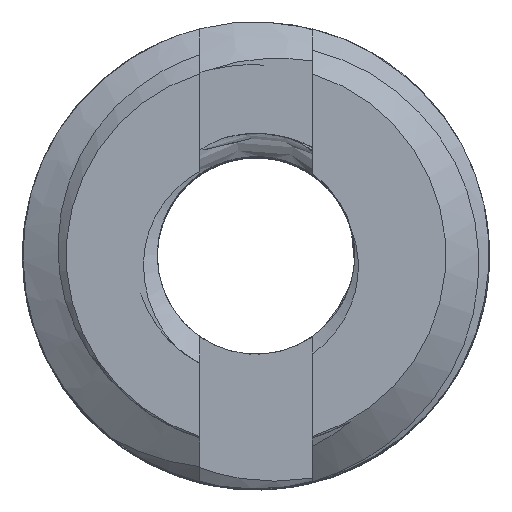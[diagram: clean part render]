
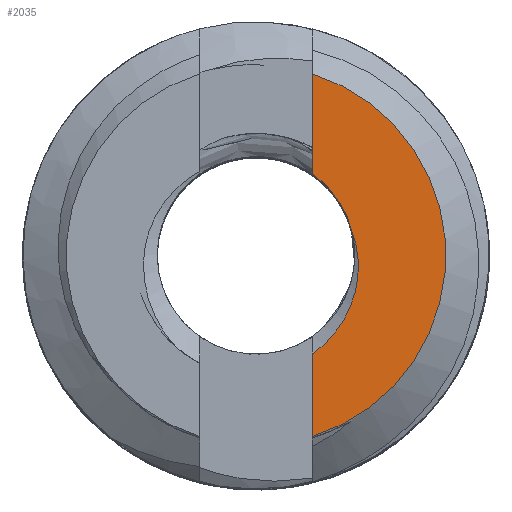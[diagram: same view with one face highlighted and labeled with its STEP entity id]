
A CAD part, top view. The second image highlights one B-rep face of the part: STEP entity #2035.
In plain terms, the highlighted planar face has unit normal (0, 0, 1).
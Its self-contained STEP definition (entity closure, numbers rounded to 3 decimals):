
#52=PLANE('',#2164);
#133=FACE_OUTER_BOUND('',#242,.T.);
#242=EDGE_LOOP('',(#1669,#1670,#1671,#1672,#1673));
#285=CIRCLE('',#2165,3.2);
#286=CIRCLE('',#2166,1.666);
#463=B_SPLINE_CURVE_WITH_KNOTS('',3,(#6597,#6598,#6599,#6600,#6601,#6602,
#6603,#6604,#6605,#6606,#6607,#6608,#6609,#6610,#6611,#6612,#6613,#6614,
#6615,#6616,#6617,#6618,#6619,#6620,#6621,#6622,#6623,#6624,#6625,#6626,
#6627,#6628,#6629,#6630,#6631,#6632,#6633,#6634,#6635,#6636,#6637,#6638,
#6639,#6640,#6641,#6642,#6643,#6644,#6645,#6646,#6647,#6648,#6649,#6650,
#6651),.UNSPECIFIED.,.F.,.F.,(4,3,3,3,3,3,3,3,3,3,3,3,3,3,3,3,3,3,4),(0.,
0.019,0.038,0.057,0.063,
0.066,0.087,0.107,0.114,
0.129,0.135,0.138,0.159,
0.18,0.194,0.206,0.209,
0.23,0.236),.UNSPECIFIED.);
#578=LINE('',#5053,#678);
#585=LINE('',#5221,#685);
#678=VECTOR('',#2410,10.);
#685=VECTOR('',#2423,10.);
#873=VERTEX_POINT('',#5050);
#874=VERTEX_POINT('',#5052);
#887=VERTEX_POINT('',#5216);
#888=VERTEX_POINT('',#5220);
#904=VERTEX_POINT('',#6595);
#1146=EDGE_CURVE('',#874,#873,#578,.T.);
#1165=EDGE_CURVE('',#888,#887,#585,.T.);
#1198=EDGE_CURVE('',#887,#874,#285,.T.);
#1199=EDGE_CURVE('',#873,#904,#286,.F.);
#1200=EDGE_CURVE('',#904,#888,#463,.T.);
#1669=ORIENTED_EDGE('',*,*,#1165,.T.);
#1670=ORIENTED_EDGE('',*,*,#1198,.T.);
#1671=ORIENTED_EDGE('',*,*,#1146,.T.);
#1672=ORIENTED_EDGE('',*,*,#1199,.T.);
#1673=ORIENTED_EDGE('',*,*,#1200,.T.);
#2035=ADVANCED_FACE('',(#133),#52,.T.);
#2164=AXIS2_PLACEMENT_3D('',#6593,#2456,#2457);
#2165=AXIS2_PLACEMENT_3D('',#6594,#2458,#2459);
#2166=AXIS2_PLACEMENT_3D('',#6596,#2460,#2461);
#2410=DIRECTION('',(0.,-1.,0.));
#2423=DIRECTION('',(0.,-1.,0.));
#2456=DIRECTION('center_axis',(0.,0.,1.));
#2457=DIRECTION('ref_axis',(1.,0.,0.));
#2458=DIRECTION('center_axis',(0.,0.,1.));
#2459=DIRECTION('ref_axis',(-1.,0.,0.));
#2460=DIRECTION('center_axis',(0.,0.,1.));
#2461=DIRECTION('ref_axis',(1.,0.,0.));
#5050=CARTESIAN_POINT('',(0.95,1.369,15.));
#5052=CARTESIAN_POINT('',(0.95,3.056,15.));
#5053=CARTESIAN_POINT('',(0.95,3.707,15.));
#5216=CARTESIAN_POINT('',(0.95,-3.056,15.));
#5220=CARTESIAN_POINT('',(0.95,-1.667,15.));
#5221=CARTESIAN_POINT('',(0.95,3.707,15.));
#6593=CARTESIAN_POINT('Origin',(0.,0.,15.));
#6594=CARTESIAN_POINT('Origin',(0.,0.,15.));
#6595=CARTESIAN_POINT('',(1.612,0.422,15.));
#6596=CARTESIAN_POINT('Origin',(0.,0.,15.));
#6597=CARTESIAN_POINT('Ctrl Pts',(1.612,0.422,15.));
#6598=CARTESIAN_POINT('Ctrl Pts',(1.635,0.363,15.));
#6599=CARTESIAN_POINT('Ctrl Pts',(1.654,0.303,15.));
#6600=CARTESIAN_POINT('Ctrl Pts',(1.67,0.242,15.));
#6601=CARTESIAN_POINT('Ctrl Pts',(1.686,0.18,15.));
#6602=CARTESIAN_POINT('Ctrl Pts',(1.699,0.117,15.));
#6603=CARTESIAN_POINT('Ctrl Pts',(1.708,0.053,15.));
#6604=CARTESIAN_POINT('Ctrl Pts',(1.717,-0.009,
15.));
#6605=CARTESIAN_POINT('Ctrl Pts',(1.722,-0.072,15.));
#6606=CARTESIAN_POINT('Ctrl Pts',(1.724,-0.135,15.));
#6607=CARTESIAN_POINT('Ctrl Pts',(1.725,-0.154,15.));
#6608=CARTESIAN_POINT('Ctrl Pts',(1.725,-0.172,15.));
#6609=CARTESIAN_POINT('Ctrl Pts',(1.725,-0.19,15.));
#6610=CARTESIAN_POINT('Ctrl Pts',(1.725,-0.202,15.));
#6611=CARTESIAN_POINT('Ctrl Pts',(1.725,-0.214,15.));
#6612=CARTESIAN_POINT('Ctrl Pts',(1.725,-0.226,15.));
#6613=CARTESIAN_POINT('Ctrl Pts',(1.724,-0.293,15.));
#6614=CARTESIAN_POINT('Ctrl Pts',(1.719,-0.36,15.));
#6615=CARTESIAN_POINT('Ctrl Pts',(1.71,-0.426,15.));
#6616=CARTESIAN_POINT('Ctrl Pts',(1.701,-0.493,15.));
#6617=CARTESIAN_POINT('Ctrl Pts',(1.688,-0.56,15.));
#6618=CARTESIAN_POINT('Ctrl Pts',(1.672,-0.625,15.));
#6619=CARTESIAN_POINT('Ctrl Pts',(1.666,-0.649,15.));
#6620=CARTESIAN_POINT('Ctrl Pts',(1.659,-0.672,15.));
#6621=CARTESIAN_POINT('Ctrl Pts',(1.652,-0.695,15.));
#6622=CARTESIAN_POINT('Ctrl Pts',(1.638,-0.744,15.));
#6623=CARTESIAN_POINT('Ctrl Pts',(1.621,-0.792,15.));
#6624=CARTESIAN_POINT('Ctrl Pts',(1.602,-0.839,15.));
#6625=CARTESIAN_POINT('Ctrl Pts',(1.596,-0.855,15.));
#6626=CARTESIAN_POINT('Ctrl Pts',(1.589,-0.871,15.));
#6627=CARTESIAN_POINT('Ctrl Pts',(1.583,-0.886,15.));
#6628=CARTESIAN_POINT('Ctrl Pts',(1.578,-0.898,15.));
#6629=CARTESIAN_POINT('Ctrl Pts',(1.573,-0.909,15.));
#6630=CARTESIAN_POINT('Ctrl Pts',(1.567,-0.92,15.));
#6631=CARTESIAN_POINT('Ctrl Pts',(1.539,-0.982,15.));
#6632=CARTESIAN_POINT('Ctrl Pts',(1.508,-1.043,15.));
#6633=CARTESIAN_POINT('Ctrl Pts',(1.473,-1.101,15.));
#6634=CARTESIAN_POINT('Ctrl Pts',(1.437,-1.16,15.));
#6635=CARTESIAN_POINT('Ctrl Pts',(1.398,-1.218,15.));
#6636=CARTESIAN_POINT('Ctrl Pts',(1.356,-1.274,15.));
#6637=CARTESIAN_POINT('Ctrl Pts',(1.327,-1.311,15.));
#6638=CARTESIAN_POINT('Ctrl Pts',(1.297,-1.348,15.));
#6639=CARTESIAN_POINT('Ctrl Pts',(1.266,-1.383,15.));
#6640=CARTESIAN_POINT('Ctrl Pts',(1.239,-1.413,15.));
#6641=CARTESIAN_POINT('Ctrl Pts',(1.211,-1.442,15.));
#6642=CARTESIAN_POINT('Ctrl Pts',(1.183,-1.471,15.));
#6643=CARTESIAN_POINT('Ctrl Pts',(1.176,-1.478,15.));
#6644=CARTESIAN_POINT('Ctrl Pts',(1.169,-1.485,15.));
#6645=CARTESIAN_POINT('Ctrl Pts',(1.161,-1.492,15.));
#6646=CARTESIAN_POINT('Ctrl Pts',(1.11,-1.541,15.));
#6647=CARTESIAN_POINT('Ctrl Pts',(1.055,-1.588,15.));
#6648=CARTESIAN_POINT('Ctrl Pts',(0.998,-1.632,15.));
#6649=CARTESIAN_POINT('Ctrl Pts',(0.982,-1.644,15.));
#6650=CARTESIAN_POINT('Ctrl Pts',(0.966,-1.655,15.));
#6651=CARTESIAN_POINT('Ctrl Pts',(0.95,-1.667,15.));
